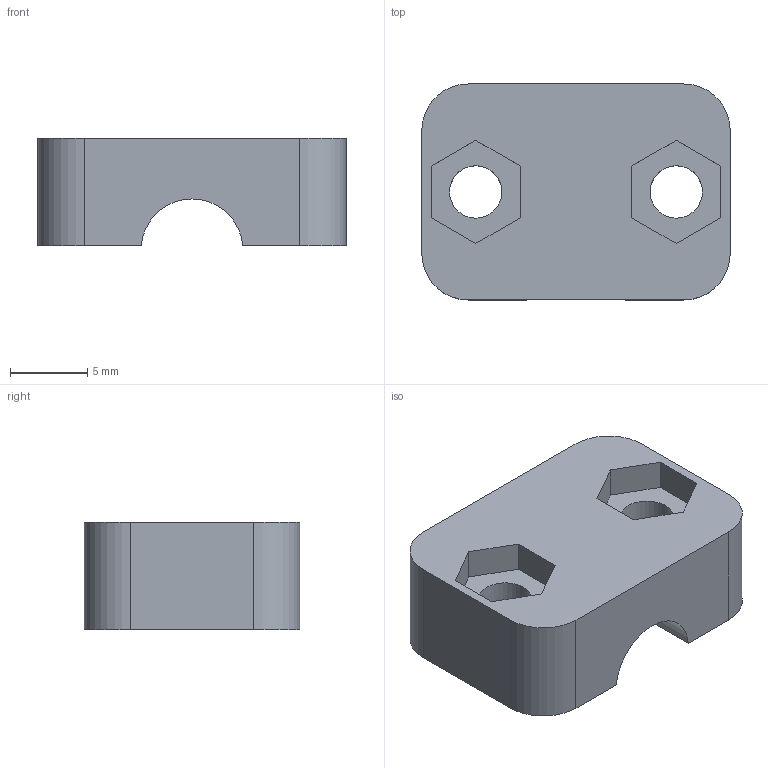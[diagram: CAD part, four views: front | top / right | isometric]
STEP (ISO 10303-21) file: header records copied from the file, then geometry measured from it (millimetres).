
FILE_DESCRIPTION(('FreeCAD Model'),'2;1');
FILE_NAME('Open CASCADE Shape Model','2026-10-18T22:43:11',('FreeCAD'),( 'FreeCAD'),'Open CASCADE STEP processor 7.8','FreeCAD','Unknown');
FILE_SCHEMA(('AUTOMOTIVE_DESIGN { 1 0 10303 214 1 1 1 1 }'));
Length unit declared in the file: millimetre
Products named in the file (1): Open CASCADE STEP translator 7.8 4
Bounding box: 20 x 14 x 7 mm (x, y, z)
Volume: 1482.2 mm3; surface area: 1150.4 mm2
Topology: 1 solids, 1 shells, 28 faces, 74 edges, 50 vertices
Faces by surface type: plane 21, cylinder 7
Full cylindrical faces by diameter (mm): 3.4 x2
Entity records: 886 total; most frequent: CARTESIAN_POINT 155, ORIENTED_EDGE 148, DIRECTION 146, EDGE_CURVE 74, LINE 56, VECTOR 56, VERTEX_POINT 50, AXIS2_PLACEMENT_3D 45
